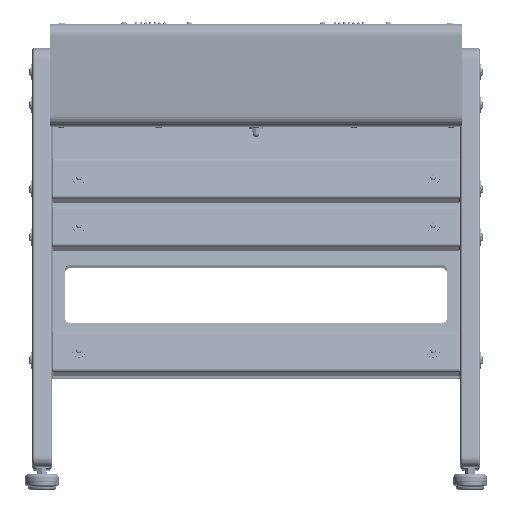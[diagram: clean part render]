
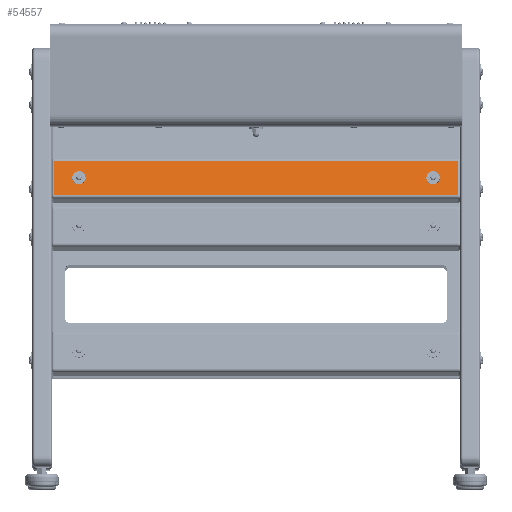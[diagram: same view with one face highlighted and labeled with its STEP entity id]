
A CAD part, top view. The second image highlights one B-rep face of the part: STEP entity #54557.
In plain terms, the highlighted planar face has unit normal (0, 0.275, 0.961) as drawn and (-1, 0, 0) by its records, which use the part's own axes.
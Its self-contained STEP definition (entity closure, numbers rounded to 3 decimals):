
#1065 = LINE ( 'NONE', #1488, #48703 ) ;
#1403 = CIRCLE ( 'NONE', #35502, 5. ) ;
#1488 = CARTESIAN_POINT ( 'NONE',  ( -17.5, 32.5, 369.2 ) ) ;
#2459 = DIRECTION ( 'NONE',  ( 1., 0., 0. ) ) ;
#2862 = VERTEX_POINT ( 'NONE', #69135 ) ;
#3291 = EDGE_CURVE ( 'NONE', #58609, #74568, #6106, .T. ) ;
#5791 = LINE ( 'NONE', #12212, #81529 ) ;
#6106 = CIRCLE ( 'NONE', #34755, 5. ) ;
#6265 = DIRECTION ( 'NONE',  ( 1., 0., 0. ) ) ;
#7494 = DIRECTION ( 'NONE',  ( 0., 0., -1. ) ) ;
#7559 = CARTESIAN_POINT ( 'NONE',  ( -17.5, -37.5, -364.2 ) ) ;
#8253 = CARTESIAN_POINT ( 'NONE',  ( -17.5, 0., -314.2 ) ) ;
#9307 = CARTESIAN_POINT ( 'NONE',  ( -17.5, -37.5, 369.2 ) ) ;
#11319 = VERTEX_POINT ( 'NONE', #81684 ) ;
#12212 = CARTESIAN_POINT ( 'NONE',  ( -17.5, -37.5, 364.2 ) ) ;
#12885 = ORIENTED_EDGE ( 'NONE', *, *, #64795, .T. ) ;
#13533 = CARTESIAN_POINT ( 'NONE',  ( -17.5, 0., 319.2 ) ) ;
#17554 = EDGE_CURVE ( 'NONE', #27720, #11319, #1065, .T. ) ;
#17809 = DIRECTION ( 'NONE',  ( 0., 0., 1. ) ) ;
#19910 = VERTEX_POINT ( 'NONE', #53680 ) ;
#21698 = DIRECTION ( 'NONE',  ( 0., 0., -1. ) ) ;
#22524 = FACE_OUTER_BOUND ( 'NONE', #80050, .T. ) ;
#27720 = VERTEX_POINT ( 'NONE', #31853 ) ;
#29999 = DIRECTION ( 'NONE',  ( 0., 0., -1. ) ) ;
#30991 = DIRECTION ( 'NONE',  ( 0., 1., 0. ) ) ;
#31377 = CARTESIAN_POINT ( 'NONE',  ( -17.5, -32.5, -364.2 ) ) ;
#31853 = CARTESIAN_POINT ( 'NONE',  ( -17.5, 32.5, 364.2 ) ) ;
#32272 = EDGE_CURVE ( 'NONE', #11319, #33708, #58768, .T. ) ;
#33708 = VERTEX_POINT ( 'NONE', #31377 ) ;
#34755 = AXIS2_PLACEMENT_3D ( 'NONE', #42574, #76696, #17809 ) ;
#34799 = ORIENTED_EDGE ( 'NONE', *, *, #44515, .T. ) ;
#35502 = AXIS2_PLACEMENT_3D ( 'NONE', #37242, #49219, #49649 ) ;
#37242 = CARTESIAN_POINT ( 'NONE',  ( -17.5, 0., -319.2 ) ) ;
#37595 = VERTEX_POINT ( 'NONE', #62476 ) ;
#41263 = ORIENTED_EDGE ( 'NONE', *, *, #42123, .T. ) ;
#42123 = EDGE_CURVE ( 'NONE', #2862, #27720, #5791, .T. ) ;
#42144 = FACE_BOUND ( 'NONE', #49230, .T. ) ;
#42574 = CARTESIAN_POINT ( 'NONE',  ( -17.5, 0., -319.2 ) ) ;
#43467 = AXIS2_PLACEMENT_3D ( 'NONE', #68868, #76514, #29999 ) ;
#43713 = DIRECTION ( 'NONE',  ( 0., 0., 1. ) ) ;
#44515 = EDGE_CURVE ( 'NONE', #74568, #58609, #1403, .T. ) ;
#46827 = DIRECTION ( 'NONE',  ( 0., 0., -1. ) ) ;
#48703 = VECTOR ( 'NONE', #7494, 1000. ) ;
#49219 = DIRECTION ( 'NONE',  ( 1., 0., 0. ) ) ;
#49230 = EDGE_LOOP ( 'NONE', ( #34799, #83943 ) ) ;
#49649 = DIRECTION ( 'NONE',  ( 0., 0., 1. ) ) ;
#53544 = AXIS2_PLACEMENT_3D ( 'NONE', #13533, #6265, #46827 ) ;
#53680 = CARTESIAN_POINT ( 'NONE',  ( -17.5, 0., 314.2 ) ) ;
#53736 = PLANE ( 'NONE',  #55734 ) ;
#54557 = ADVANCED_FACE ( 'NONE', ( #22524, #66964, #42144 ), #53736, .F. ) ;
#55734 = AXIS2_PLACEMENT_3D ( 'NONE', #9307, #2459, #21698 ) ;
#57850 = ORIENTED_EDGE ( 'NONE', *, *, #68724, .T. ) ;
#58609 = VERTEX_POINT ( 'NONE', #8253 ) ;
#58768 = LINE ( 'NONE', #7559, #82330 ) ;
#62476 = CARTESIAN_POINT ( 'NONE',  ( -17.5, 0., 324.2 ) ) ;
#64795 = EDGE_CURVE ( 'NONE', #19910, #37595, #74780, .T. ) ;
#66964 = FACE_BOUND ( 'NONE', #73791, .T. ) ;
#67142 = CIRCLE ( 'NONE', #53544, 5. ) ;
#68724 = EDGE_CURVE ( 'NONE', #33708, #2862, #69758, .T. ) ;
#68868 = CARTESIAN_POINT ( 'NONE',  ( -17.5, 0., 319.2 ) ) ;
#68927 = CARTESIAN_POINT ( 'NONE',  ( -17.5, -32.5, 369.2 ) ) ;
#69135 = CARTESIAN_POINT ( 'NONE',  ( -17.5, -32.5, 364.2 ) ) ;
#69524 = ORIENTED_EDGE ( 'NONE', *, *, #32272, .T. ) ;
#69758 = LINE ( 'NONE', #68927, #79251 ) ;
#73791 = EDGE_LOOP ( 'NONE', ( #12885, #83455 ) ) ;
#74568 = VERTEX_POINT ( 'NONE', #77852 ) ;
#74780 = CIRCLE ( 'NONE', #43467, 5. ) ;
#76058 = ORIENTED_EDGE ( 'NONE', *, *, #17554, .T. ) ;
#76514 = DIRECTION ( 'NONE',  ( 1., 0., 0. ) ) ;
#76696 = DIRECTION ( 'NONE',  ( 1., 0., 0. ) ) ;
#77852 = CARTESIAN_POINT ( 'NONE',  ( -17.5, 0., -324.2 ) ) ;
#79172 = EDGE_CURVE ( 'NONE', #37595, #19910, #67142, .T. ) ;
#79251 = VECTOR ( 'NONE', #43713, 1000. ) ;
#79687 = DIRECTION ( 'NONE',  ( 0., -1., 0. ) ) ;
#80050 = EDGE_LOOP ( 'NONE', ( #69524, #57850, #41263, #76058 ) ) ;
#81529 = VECTOR ( 'NONE', #30991, 1000. ) ;
#81684 = CARTESIAN_POINT ( 'NONE',  ( -17.5, 32.5, -364.2 ) ) ;
#82330 = VECTOR ( 'NONE', #79687, 1000. ) ;
#83455 = ORIENTED_EDGE ( 'NONE', *, *, #79172, .T. ) ;
#83943 = ORIENTED_EDGE ( 'NONE', *, *, #3291, .T. ) ;
